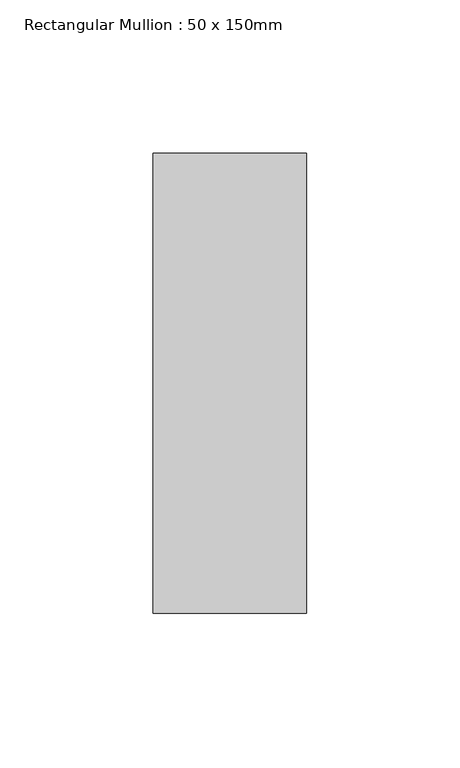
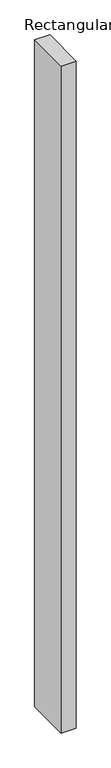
"""IFC4 building model written with IfcOpenShell, lengths in millimetres: member geometry, Rectangular Mullion : 50 x 150mm."""

import ifcopenshell
import ifcopenshell.guid

model = None  # the IFC model being written
_history = None  # IfcOwnerHistory: only IFC2X3 demands one
_inside = {}  # id of a spatial element -> (the spatial element, [elements in it])
_under = {}  # id of a project, library or spatial element -> (it, [spatial elements below it])
_declared = {}  # id of a project -> (the project, [libraries it declares])
_typed = {}  # id of a type object -> (the type object, [elements of that type])
_made_of = {}  # id of a material, layer set ... -> (it, [elements and type objects made of it])


def new_model(schema):
    """Start an empty IFC model of exactly this schema.

    Asked for "IFC4X3", IfcOpenShell would pick the latest addendum, in which some entities
    have other attributes; the version numbers below select the first issue.
    IFC2X3 requires an IfcOwnerHistory on every rooted entity: one is made here for all.
    """
    global model, _history
    if schema == "IFC4X3":
        model = ifcopenshell.file(schema_version=(4, 3, 0, 0))
    else:
        model = ifcopenshell.file(schema=schema)
    _inside.clear()
    _under.clear()
    _declared.clear()
    _typed.clear()
    _made_of.clear()
    _history = None
    if model.schema == "IFC2X3":
        org = make("IfcOrganization", Name="unknown")
        user = make(
            "IfcPersonAndOrganization",
            ThePerson=make("IfcPerson", FamilyName="unknown"),
            TheOrganization=org,
        )
        app = make(
            "IfcApplication",
            ApplicationDeveloper=org,
            Version="unknown",
            ApplicationFullName="unknown",
            ApplicationIdentifier="unknown",
        )
        _history = make(
            "IfcOwnerHistory",
            OwningUser=user,
            OwningApplication=app,
            ChangeAction="ADDED",
            CreationDate=0,
        )
    return model


def make(cls, **values):
    """One entity of the class cls with the attributes given. An attribute that is None is left unset."""
    return model.create_entity(
        cls, **{name: value for name, value in values.items() if value is not None}
    )


def rooted(cls, **values):
    """An entity with a GlobalId (a new one), such as an element, a storey or a relation."""
    return make(cls, GlobalId=ifcopenshell.guid.new(), OwnerHistory=_history, **values)


def si_unit(unit_type, name, prefix=None):
    """IfcSIUnit, for example si_unit("LENGTHUNIT", "METRE", prefix="MILLI")."""
    return make("IfcSIUnit", UnitType=unit_type, Prefix=prefix, Name=name)


def assignment(units):
    """IfcUnitAssignment: the units of a project."""
    return None if units is None else make("IfcUnitAssignment", Units=units)


def point(xyz):
    """IfcCartesianPoint."""
    return None if xyz is None else make("IfcCartesianPoint", Coordinates=xyz)


def direction(xyz):
    """IfcDirection."""
    return None if xyz is None else make("IfcDirection", DirectionRatios=xyz)


def frame(location, z_axis=None, x_axis=None):
    """IfcAxis2Placement3D, a coordinate frame: its origin and axes. An axis left out is left unset."""
    return make(
        "IfcAxis2Placement3D",
        Location=point(location),
        Axis=direction(z_axis),
        RefDirection=direction(x_axis),
    )


def origin():
    """The frame at (0, 0, 0) with its axes left unset."""
    return frame((0.0, 0.0, 0.0))


def place(relative_to, where):
    """IfcLocalPlacement: puts the frame where relative to a parent placement (None: the world)."""
    return make(
        "IfcLocalPlacement", PlacementRelTo=relative_to, RelativePlacement=where
    )


def context(
    kind, dimensions, precision=None, world=None, true_north=None, identifier=None
):
    """IfcGeometricRepresentationContext, for example the 3D "Model" context."""
    return make(
        "IfcGeometricRepresentationContext",
        ContextIdentifier=identifier,
        ContextType=kind,
        CoordinateSpaceDimension=dimensions,
        Precision=precision,
        WorldCoordinateSystem=world,
        TrueNorth=true_north,
    )


def project(units=None, contexts=None):
    """IfcProject with its units and contexts."""
    return rooted(
        "IfcProject",
        Name="project",
        RepresentationContexts=contexts,
        UnitsInContext=assignment(units),
    )


def spatial(cls, under=None, at=None, **own):
    """A site, building, storey or space (cls), placed at a placement, below another one or the project."""
    s = rooted(cls, ObjectPlacement=at, **own)
    if under is not None:
        _under.setdefault(under.id(), (under, []))[1].append(s)
    return s


def polyline(points):
    """IfcPolyline through the points."""
    return make("IfcPolyline", Points=[point(p) for p in points])


def outline(outer, holes=None, kind="AREA"):
    """IfcArbitraryClosedProfileDef: a profile drawn as a closed curve; with holes, ...WithVoids."""
    if holes is None:
        return make("IfcArbitraryClosedProfileDef", ProfileType=kind, OuterCurve=outer)
    return make(
        "IfcArbitraryProfileDefWithVoids",
        ProfileType=kind,
        OuterCurve=outer,
        InnerCurves=holes,
    )


def extrude(swept, where, along, depth):
    """IfcExtrudedAreaSolid: the profile swept, set in the frame where, extruded along a direction by depth."""
    return make(
        "IfcExtrudedAreaSolid",
        SweptArea=swept,
        Position=where,
        ExtrudedDirection=direction(along),
        Depth=depth,
    )


def shape(context_of_items, identifier, shape_type, items):
    """IfcShapeRepresentation: the items that make up one representation, for example the "Body"."""
    return make(
        "IfcShapeRepresentation",
        ContextOfItems=context_of_items,
        RepresentationIdentifier=identifier,
        RepresentationType=shape_type,
        Items=items,
    )


def source(mapping_origin, context_of_items, identifier, shape_type, items):
    """IfcRepresentationMap: a shape defined once, which mapped items show again and again."""
    return make(
        "IfcRepresentationMap",
        MappingOrigin=mapping_origin,
        MappedRepresentation=shape(context_of_items, identifier, shape_type, items),
    )


def transform(
    local_origin,
    x_axis=None,
    y_axis=None,
    z_axis=None,
    scale=None,
    scale2=None,
    scale3=None,
    uniform=True,
):
    """IfcCartesianTransformationOperator3D, or its non-uniform kind. x_axis, y_axis, z_axis: its Axis1, 2, 3."""
    if uniform:
        return make(
            "IfcCartesianTransformationOperator3D",
            Axis1=direction(x_axis),
            Axis2=direction(y_axis),
            LocalOrigin=point(local_origin),
            Scale=scale,
            Axis3=direction(z_axis),
        )
    return make(
        "IfcCartesianTransformationOperator3DnonUniform",
        Axis1=direction(x_axis),
        Axis2=direction(y_axis),
        LocalOrigin=point(local_origin),
        Scale=scale,
        Axis3=direction(z_axis),
        Scale2=scale2,
        Scale3=scale3,
    )


def mapped(mapping_source, mapping_target):
    """IfcMappedItem: shows the shape of a source again, moved by a transform."""
    return make(
        "IfcMappedItem", MappingSource=mapping_source, MappingTarget=mapping_target
    )


def made_of(thing, what):
    """Note that an element or type object is made of a material, layer set ...; save() writes the relation."""
    if what is not None:
        _made_of.setdefault(what.id(), (what, []))[1].append(thing)
    return thing


def element(
    cls,
    number,
    at=None,
    inside=None,
    cuts=None,
    type_object=None,
    material=None,
    context=None,
    identifier="Body",
    shape_type=None,
    held_by="IfcProductDefinitionShape",
    body=None,
    shapes=None,
    **own,
):
    """One element of the class cls, such as IfcWall. Its Tag is "e" and its number.

    at: its placement. inside: the storey or other place that contains it. cuts: it is an
    opening in that element (IfcRelVoidsElement). A single representation is given by context,
    identifier, shape_type and body (its items); several are given by shapes. held_by: the class
    of the entity that holds the representations. save() writes the other relations.
    """
    e = rooted(cls, Tag="e%d" % number, ObjectPlacement=at, **own)
    if body is not None:
        shapes = [shape(context, identifier, shape_type, body)]
    if shapes is not None:
        e.Representation = make(held_by, Representations=shapes)
    if inside is not None:
        _inside.setdefault(inside.id(), (inside, []))[1].append(e)
    if cuts is not None:
        rooted(
            "IfcRelVoidsElement", RelatingBuildingElement=cuts, RelatedOpeningElement=e
        )
    if type_object is not None:
        _typed.setdefault(type_object.id(), (type_object, []))[1].append(e)
    return made_of(e, material)


def aggregate(whole, parts):
    """IfcRelAggregates: a whole, such as a stair, and the parts it consists of."""
    return rooted("IfcRelAggregates", RelatingObject=whole, RelatedObjects=parts)


def save(model, path):
    """Write the relations noted so far, then the file.

    IfcRelAggregates (storeys below a building ...), IfcRelContainedInSpatialStructure (elements
    in a storey), IfcRelDefinesByType, IfcRelAssociatesMaterial and IfcRelDeclares: one each for
    every whole, place, type object, material and project.
    """
    for whole, parts in _under.values():
        aggregate(whole, parts)
    for where, things in _inside.values():
        rooted(
            "IfcRelContainedInSpatialStructure",
            RelatedElements=things,
            RelatingStructure=where,
        )
    for kind, things in _typed.values():
        rooted("IfcRelDefinesByType", RelatedObjects=things, RelatingType=kind)
    for what, things in _made_of.values():
        rooted("IfcRelAssociatesMaterial", RelatedObjects=things, RelatingMaterial=what)
    for by, libraries in _declared.values():
        rooted("IfcRelDeclares", RelatingContext=by, RelatedDefinitions=libraries)
    model.write(path)


def rectangular_mullion_50_x_150mm_c1bfd69c(model_context):
    return source(origin(), model_context, "Body", "SweptSolid", [
        extrude(outline(polyline([(25.0, 75.0), (25.0, -75.0), (-25.0, -75.0), (-25.0, 75.0), (25.0, 75.0)])), frame((0.0, 0.0, -2323.4350545), z_axis=(0.0, 0.0, 1.0), x_axis=(1.0, 0.0, 0.0)), (0.0, 0.0, 1.0), 2323.4350545),
    ])


if __name__ == "__main__":
    model = new_model("IFC4")
    model_context = context("Model", 3, world=origin())
    ifc_project = project(units=[si_unit("LENGTHUNIT", "METRE", prefix="MILLI")], contexts=[model_context])
    site = spatial("IfcSite", under=ifc_project)
    building = spatial("IfcBuilding", under=site)
    placement = place(None, origin())
    rectangular_mullion_50_x_150mm_shape = rectangular_mullion_50_x_150mm_c1bfd69c(model_context)
    element("IfcMember", 1, ObjectType="Rectangular Mullion : 50 x 150mm", at=placement, inside=building, context=model_context, shape_type="MappedRepresentation", body=[
        mapped(rectangular_mullion_50_x_150mm_shape, transform((0.0, 0.0, 0.0), x_axis=(1.0, 0.0, 0.0), y_axis=(0.0, 1.0, 0.0), z_axis=(0.0, 0.0, 1.0))),
    ])
    save(model, "model.ifc")
